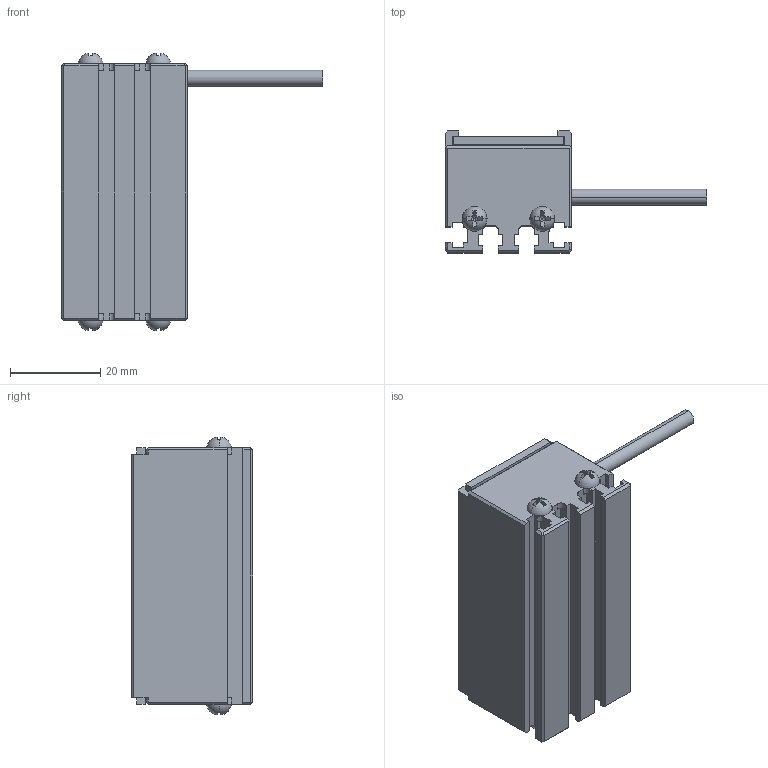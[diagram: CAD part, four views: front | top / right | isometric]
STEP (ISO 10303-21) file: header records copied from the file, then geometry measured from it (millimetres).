
FILE_DESCRIPTION((''),'2;1');
FILE_NAME('MV-LLDS-57-28_ASM','2020-12-29T',('Administrator'),(''),'PRO/ENGINEER BY PARAMETRIC TECHNOLOGY CORPORATION, 2010100','PRO/ENGINEER BY PARAMETRIC TECHNOLOGY CORPORATION, 2010100','');
FILE_SCHEMA(('CONFIG_CONTROL_DESIGN'));
Length unit declared in the file: millimetre
Products named in the file (3): MV-LLDS-57-28__3D_; M3-5; MV-LLDS-57-28_ASM
Assembly tree (5 placements, depth 2):
  MV-LLDS-57-28_ASM
    MV-LLDS-57-28__3D_
    M3-5  x4
Bounding box: 58 x 27 x 61.68 mm (x, y, z)
Volume: 35964.4 mm3; surface area: 15716.8 mm2
Topology: 5 solids, 13 shells, 303 faces, 810 edges, 528 vertices
Faces by surface type: plane 185, cylinder 70, cone 16, bspline 16, torus 8, sphere 8
Entity records: 6895 total; most frequent: CARTESIAN_POINT 1479, DIRECTION 1104, ORIENTED_EDGE 1104, EDGE_CURVE 562, VECTOR 398, LINE 398, VERTEX_POINT 372, AXIS2_PLACEMENT_3D 353
